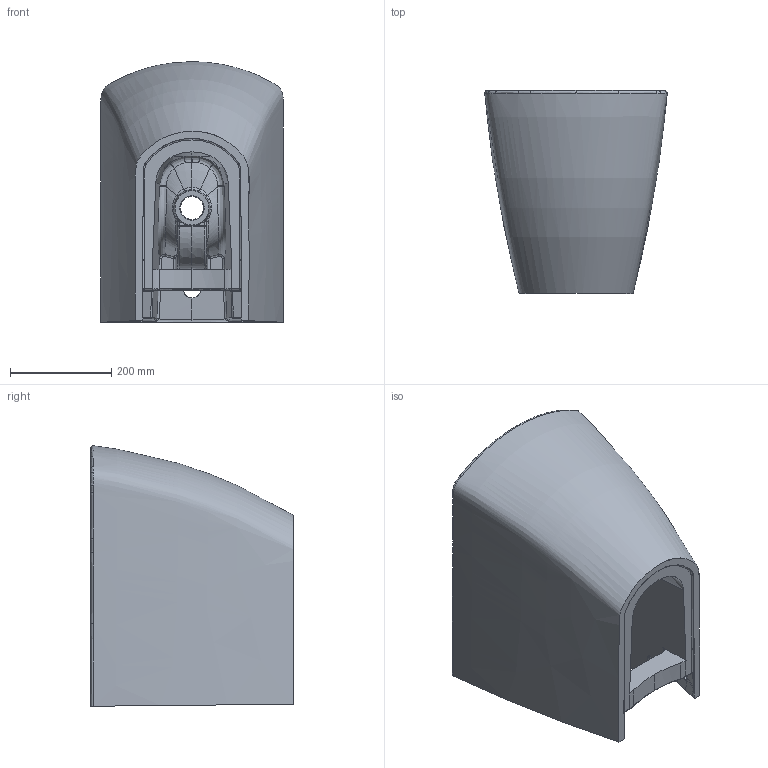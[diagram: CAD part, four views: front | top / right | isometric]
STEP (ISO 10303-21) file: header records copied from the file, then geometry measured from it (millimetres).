
FILE_DESCRIPTION (( 'STEP AP203' ), '1' );
FILE_NAME ('EG500 MODEL.STEP', '2022-04-06T12:18:40', ( '' ), ( '' ), 'SwSTEP 2.0', 'SolidWorks 2021', '' );
FILE_SCHEMA (( 'CONFIG_CONTROL_DESIGN' ));
Products named in the file (1): EG500 MODEL
Bounding box: 361.06 x 400.84 x 515.36 mm (x, y, z)
Volume: 31859130 mm3; surface area: 1150283.6 mm2
Topology: 2 solids, 2 shells, 331 faces, 870 edges, 535 vertices
Faces by surface type: bspline 247, plane 32, cylinder 31, cone 8, sphere 7, torus 6
Entity records: 134307 total; most frequent: CARTESIAN_POINT 128158, ORIENTED_EDGE 1732, EDGE_CURVE 866, DIRECTION 600, B_SPLINE_CURVE_WITH_KNOTS 588, VERTEX_POINT 535, EDGE_LOOP 335, FACE_OUTER_BOUND 331
